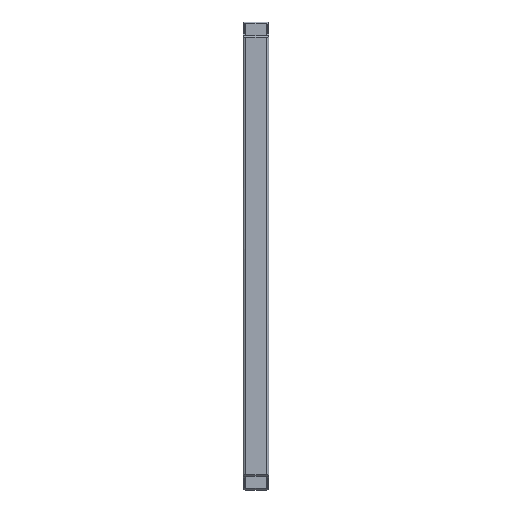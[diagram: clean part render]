
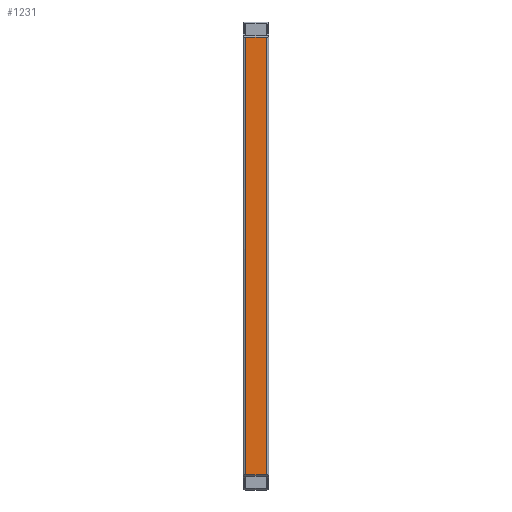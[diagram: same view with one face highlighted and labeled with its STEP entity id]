
A CAD part, left-side view. The second image highlights one B-rep face of the part: STEP entity #1231.
In plain terms, the highlighted planar face has unit normal (-1, 0, 0).
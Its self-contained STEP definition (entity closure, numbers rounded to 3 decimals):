
#44 = PLANE('',#45);
#45 = AXIS2_PLACEMENT_3D('',#46,#47,#48);
#46 = CARTESIAN_POINT('',(0.,0.,0.));
#47 = DIRECTION('',(0.707,-0.,0.707));
#48 = DIRECTION('',(0.707,0.,-0.707));
#100 = PLANE('',#101);
#101 = AXIS2_PLACEMENT_3D('',#102,#103,#104);
#102 = CARTESIAN_POINT('',(-876.,0.,876.));
#103 = DIRECTION('',(0.707,0.,-0.707));
#104 = DIRECTION('',(-0.707,0.,-0.707));
#126 = CYLINDRICAL_SURFACE('',#127,9.45);
#127 = AXIS2_PLACEMENT_3D('',#128,#129,#130);
#128 = CARTESIAN_POINT('',(-20.55,-40.55,-30.));
#129 = DIRECTION('',(0.,-0.,-1.));
#130 = DIRECTION('',(-1.,-0.,-0.));
#244 = VERTEX_POINT('',#245);
#245 = CARTESIAN_POINT('',(-30.,-40.55,30.));
#277 = EDGE_CURVE('',#244,#278,#280,.T.);
#278 = VERTEX_POINT('',#279);
#279 = CARTESIAN_POINT('',(-30.,40.55,30.));
#280 = SURFACE_CURVE('',#281,(#285,#292),.PCURVE_S1.);
#281 = LINE('',#282,#283);
#282 = CARTESIAN_POINT('',(-30.,-20.275,30.));
#283 = VECTOR('',#284,1.);
#284 = DIRECTION('',(-0.,1.,-0.));
#285 = PCURVE('',#44,#286);
#286 = DEFINITIONAL_REPRESENTATION('',(#287),#291);
#287 = LINE('',#288,#289);
#288 = CARTESIAN_POINT('',(-42.426,-20.275));
#289 = VECTOR('',#290,1.);
#290 = DIRECTION('',(-0.,1.));
#291 = ( GEOMETRIC_REPRESENTATION_CONTEXT(2) 
PARAMETRIC_REPRESENTATION_CONTEXT() REPRESENTATION_CONTEXT('2D SPACE',''
  ) );
#292 = PCURVE('',#293,#298);
#293 = PLANE('',#294);
#294 = AXIS2_PLACEMENT_3D('',#295,#296,#297);
#295 = CARTESIAN_POINT('',(-30.,-40.55,-30.));
#296 = DIRECTION('',(1.,-0.,-0.));
#297 = DIRECTION('',(0.,-1.,0.));
#298 = DEFINITIONAL_REPRESENTATION('',(#299),#303);
#299 = LINE('',#300,#301);
#300 = CARTESIAN_POINT('',(-20.275,-60.));
#301 = VECTOR('',#302,1.);
#302 = DIRECTION('',(-1.,0.));
#303 = ( GEOMETRIC_REPRESENTATION_CONTEXT(2) 
PARAMETRIC_REPRESENTATION_CONTEXT() REPRESENTATION_CONTEXT('2D SPACE',''
  ) );
#326 = CYLINDRICAL_SURFACE('',#327,9.45);
#327 = AXIS2_PLACEMENT_3D('',#328,#329,#330);
#328 = CARTESIAN_POINT('',(-20.55,40.55,-30.));
#329 = DIRECTION('',(0.,-0.,-1.));
#330 = DIRECTION('',(-1.,-0.,-0.));
#646 = VERTEX_POINT('',#647);
#647 = CARTESIAN_POINT('',(-30.,-40.55,1722.));
#679 = EDGE_CURVE('',#244,#646,#680,.T.);
#680 = SURFACE_CURVE('',#681,(#685,#692),.PCURVE_S1.);
#681 = LINE('',#682,#683);
#682 = CARTESIAN_POINT('',(-30.,-40.55,-30.));
#683 = VECTOR('',#684,1.);
#684 = DIRECTION('',(-0.,-0.,1.));
#685 = PCURVE('',#126,#686);
#686 = DEFINITIONAL_REPRESENTATION('',(#687),#691);
#687 = LINE('',#688,#689);
#688 = CARTESIAN_POINT('',(6.283,0.));
#689 = VECTOR('',#690,1.);
#690 = DIRECTION('',(0.,-1.));
#691 = ( GEOMETRIC_REPRESENTATION_CONTEXT(2) 
PARAMETRIC_REPRESENTATION_CONTEXT() REPRESENTATION_CONTEXT('2D SPACE',''
  ) );
#692 = PCURVE('',#293,#693);
#693 = DEFINITIONAL_REPRESENTATION('',(#694),#698);
#694 = LINE('',#695,#696);
#695 = CARTESIAN_POINT('',(-0.,-0.));
#696 = VECTOR('',#697,1.);
#697 = DIRECTION('',(-0.,-1.));
#698 = ( GEOMETRIC_REPRESENTATION_CONTEXT(2) 
PARAMETRIC_REPRESENTATION_CONTEXT() REPRESENTATION_CONTEXT('2D SPACE',''
  ) );
#786 = VERTEX_POINT('',#787);
#787 = CARTESIAN_POINT('',(-30.,40.55,1722.));
#819 = EDGE_CURVE('',#786,#646,#820,.T.);
#820 = SURFACE_CURVE('',#821,(#825,#832),.PCURVE_S1.);
#821 = LINE('',#822,#823);
#822 = CARTESIAN_POINT('',(-30.,-20.275,1722.));
#823 = VECTOR('',#824,1.);
#824 = DIRECTION('',(-0.,-1.,0.));
#825 = PCURVE('',#100,#826);
#826 = DEFINITIONAL_REPRESENTATION('',(#827),#831);
#827 = LINE('',#828,#829);
#828 = CARTESIAN_POINT('',(-1196.425,-20.275));
#829 = VECTOR('',#830,1.);
#830 = DIRECTION('',(-0.,-1.));
#831 = ( GEOMETRIC_REPRESENTATION_CONTEXT(2) 
PARAMETRIC_REPRESENTATION_CONTEXT() REPRESENTATION_CONTEXT('2D SPACE',''
  ) );
#832 = PCURVE('',#293,#833);
#833 = DEFINITIONAL_REPRESENTATION('',(#834),#838);
#834 = LINE('',#835,#836);
#835 = CARTESIAN_POINT('',(-20.275,-1752.));
#836 = VECTOR('',#837,1.);
#837 = DIRECTION('',(1.,-0.));
#838 = ( GEOMETRIC_REPRESENTATION_CONTEXT(2) 
PARAMETRIC_REPRESENTATION_CONTEXT() REPRESENTATION_CONTEXT('2D SPACE',''
  ) );
#1209 = EDGE_CURVE('',#278,#786,#1210,.T.);
#1210 = SURFACE_CURVE('',#1211,(#1215,#1222),.PCURVE_S1.);
#1211 = LINE('',#1212,#1213);
#1212 = CARTESIAN_POINT('',(-30.,40.55,-30.));
#1213 = VECTOR('',#1214,1.);
#1214 = DIRECTION('',(-0.,-0.,1.));
#1215 = PCURVE('',#326,#1216);
#1216 = DEFINITIONAL_REPRESENTATION('',(#1217),#1221);
#1217 = LINE('',#1218,#1219);
#1218 = CARTESIAN_POINT('',(0.,0.));
#1219 = VECTOR('',#1220,1.);
#1220 = DIRECTION('',(0.,-1.));
#1221 = ( GEOMETRIC_REPRESENTATION_CONTEXT(2) 
PARAMETRIC_REPRESENTATION_CONTEXT() REPRESENTATION_CONTEXT('2D SPACE',''
  ) );
#1222 = PCURVE('',#293,#1223);
#1223 = DEFINITIONAL_REPRESENTATION('',(#1224),#1228);
#1224 = LINE('',#1225,#1226);
#1225 = CARTESIAN_POINT('',(-81.1,-0.));
#1226 = VECTOR('',#1227,1.);
#1227 = DIRECTION('',(-0.,-1.));
#1228 = ( GEOMETRIC_REPRESENTATION_CONTEXT(2) 
PARAMETRIC_REPRESENTATION_CONTEXT() REPRESENTATION_CONTEXT('2D SPACE',''
  ) );
#1231 = ADVANCED_FACE('',(#1232),#293,.F.);
#1232 = FACE_BOUND('',#1233,.T.);
#1233 = EDGE_LOOP('',(#1234,#1235,#1236,#1237));
#1234 = ORIENTED_EDGE('',*,*,#277,.F.);
#1235 = ORIENTED_EDGE('',*,*,#679,.T.);
#1236 = ORIENTED_EDGE('',*,*,#819,.F.);
#1237 = ORIENTED_EDGE('',*,*,#1209,.F.);
